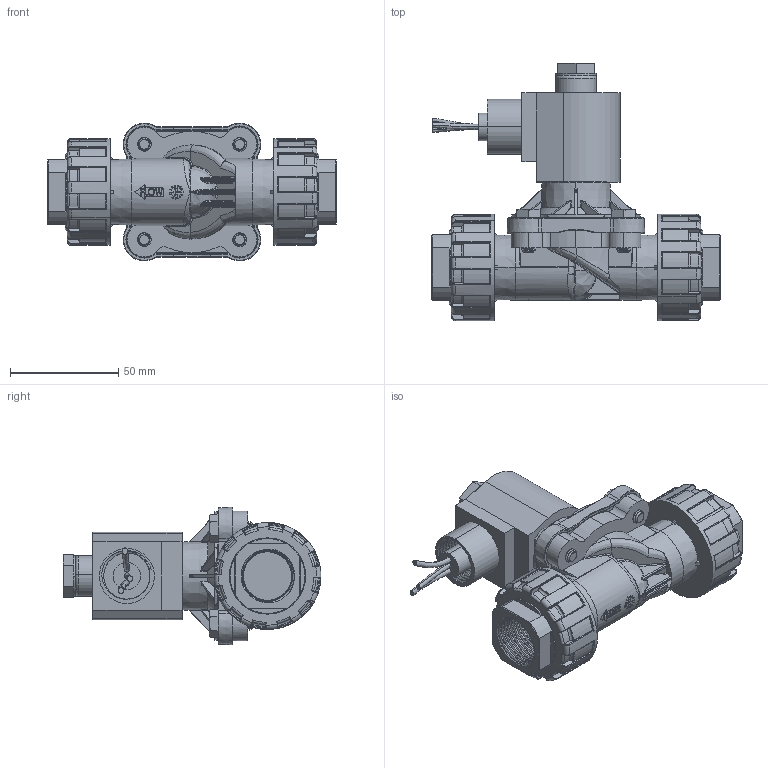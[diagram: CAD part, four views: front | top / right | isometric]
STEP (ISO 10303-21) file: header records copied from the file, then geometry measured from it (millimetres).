
FILE_DESCRIPTION (( 'STEP AP203' ), '1' );
FILE_NAME ('T202GxxxxPE2.STEP', '2024-05-06T16:08:49', ( '' ), ( '' ), 'SwSTEP 2.0', 'SolidWorks 2023', '' );
FILE_SCHEMA (( 'CONFIG_CONTROL_DESIGN' ));
Length unit declared in the file: millimetre
Products named in the file (1): T202GxxxxPE2
Bounding box: 133 x 118.92 x 63.5 mm (x, y, z)
Volume: 253964.3 mm3; surface area: 51470.4 mm2
Topology: 1 solids, 1 shells, 2502 faces, 6493 edges, 3963 vertices
Faces by surface type: bspline 893, plane 660, cylinder 401, torus 275, cone 191, sphere 82
Entity records: 122782 total; most frequent: CARTESIAN_POINT 69817, ORIENTED_EDGE 12758, DIRECTION 8631, EDGE_CURVE 6379, VERTEX_POINT 3959, AXIS2_PLACEMENT_3D 3224, EDGE_LOOP 2582, ADVANCED_FACE 2502
